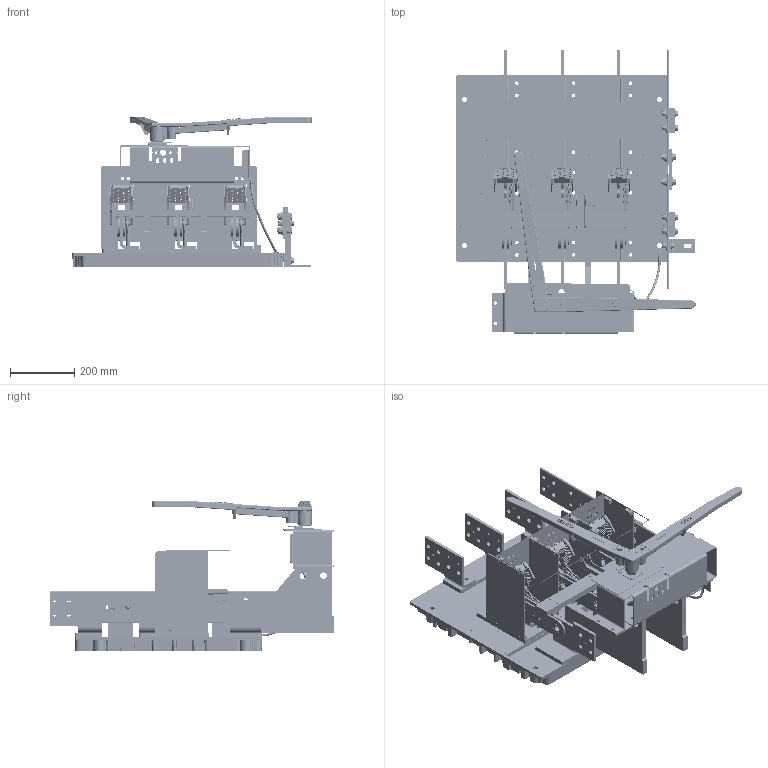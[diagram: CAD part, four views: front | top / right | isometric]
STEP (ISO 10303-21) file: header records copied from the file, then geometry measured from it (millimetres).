
FILE_DESCRIPTION(/* description */ (''),/* implementation_level */ '2;1');
FILE_NAME(/* name */ 'H:\switches\3d-templates\catalog-switches-iges-files\CATALOG-VLB448N.stp',/* time_stamp */ '2022-03-15T11:15:40-05:00',/* author */ ('MKingston'),/* organization */ (''),/* preprocessor_version */ 'ST-DEVELOPER v18.1',/* originating_system */ 'Autodesk Inventor 2022',/* authorisation */ '');
FILE_SCHEMA (('AUTOMOTIVE_DESIGN { 1 0 10303 214 3 1 1 }'));
Products named in the file (66): vlb348; 277-bf; 668-DB; 668-EB; 668-CB; catalog-368-blade-assy; 67-AL; 67-AR; 67-fc3; 67-gc3; 67-j; ANSI/ASME B18.7 - T 0.252 x 17/32; ANSI/ASME B18.7 - T 0.188 x 17/32; 235-b; catalog-56-qj-arcchute-assy; 363-da; 363-da_MIR; 50-QLX; 50-QRX; 56-QJS; 57-QJSB; 57-QJST; vlb-interpole-right-side-assy; vlb-interpole-assy; 256-b; 178-b; 178-c; 256-d; 256-c; 230-a; 246-f; 820-bw1; 820-fw3; 221-RP,R3; 1200-VLB-NEUTRAL-NO-GFI; 675-a; 676-s; 675-df; 677-e; 678-r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
Assembly tree (142 placements, depth 4):
  vlb348
    277-bf
    668-DB  x3
    668-EB  x3
    668-CB  x3
    catalog-368-blade-assy  x3
      67-AL
      67-AR
      67-fc3
      67-gc3
      67-j
      ANSI/ASME B18.7 - T 0.252 x 17/32
      ANSI/ASME B18.7 - T 0.188 x 17/32
    235-b
    catalog-56-qj-arcchute-assy  x3
      363-da
      363-da_MIR
      50-QLX
      50-QRX
      56-QJS
      57-QJSB
      57-QJST
    vlb-interpole-right-side-assy  x2
      256-b
      178-b
      178-c
    vlb-interpole-assy  x2
      256-b
      178-b
      178-c
    256-d
    256-c
    230-a
    246-f  x2
    820-bw1
    820-fw3
    221-RP,R3
    1200-VLB-NEUTRAL-NO-GFI
      675-a  x2
      676-s  x2
      675-df  x2
      677-e
      678-r
      Bolted Connection
        ASTM F436 - 1/2, CW  x8
        ANSI B18.2.1 - 1/2-13 UNC - 1.5, HCSI  x4
        ASME B18.21.1 - 1/2, RHSLW  x4
        AS 2465 - 1/2  UNC  x4
      Bolted Connection_1
        ASTM F436 - 3/8, CW  x4
        ANSI B18.2.1 - 3/8-16 UNC - 1.75, HCSI  x4
        ANSI B18.22.1 - 3/8 - wide - Type B  x4
        ANSI B18.21.1 - 0.375  x4
        ANSI B18.2.2 - 3/8 - 16, HNI  x4
      Bolted Connection_2
        ASTM F436 - 3/8, CW
        ANSI B18.2.1 - 3/8-16 UNC - 1.25, HCSI
        ANSI B18.22.1 - 3/8 - wide - Type B
        ANSI B18.21.1 - 0.375
        ANSI B18.2.2 - 3/8 - 16, HNI
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Bounding box: 747.67 x 890.28 x 467.84 mm (x, y, z)
Volume: 19342123.7 mm3; surface area: 4416967.4 mm2
Topology: 175 solids, 177 shells, 6029 faces, 15318 edges, 9958 vertices
Faces by surface type: plane 3035, cylinder 1578, cone 831, bspline 451, torus 120, sphere 14
Full cylindrical faces by diameter (mm): 1.702 x8, 3.175 x4, 3.302 x2, 3.454 x4, 3.683 x8, 3.759 x12, 3.962 x4, 4.166 x2, 4.305 x42, 4.496 x24, 4.762 x4, 4.775 x11, 4.801 x8, 4.902 x14, 4.915 x24, 4.978 x3, 5.08 x2, 5.537 x2, 5.556 x3, 5.791 x6, 6.35 x43, 6.401 x9, 6.528 x70, 7.144 x12, 7.798 x11, 7.938 x21, 8.077 x3, 8.179 x1, 8.331 x2, 8.687 x2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
Entity records: 111899 total; most frequent: CARTESIAN_POINT 28572, ORIENTED_EDGE 16782, DIRECTION 16683, EDGE_CURVE 8402, AXIS2_PLACEMENT_3D 5952, VERTEX_POINT 5501, LINE 4779, VECTOR 4779
